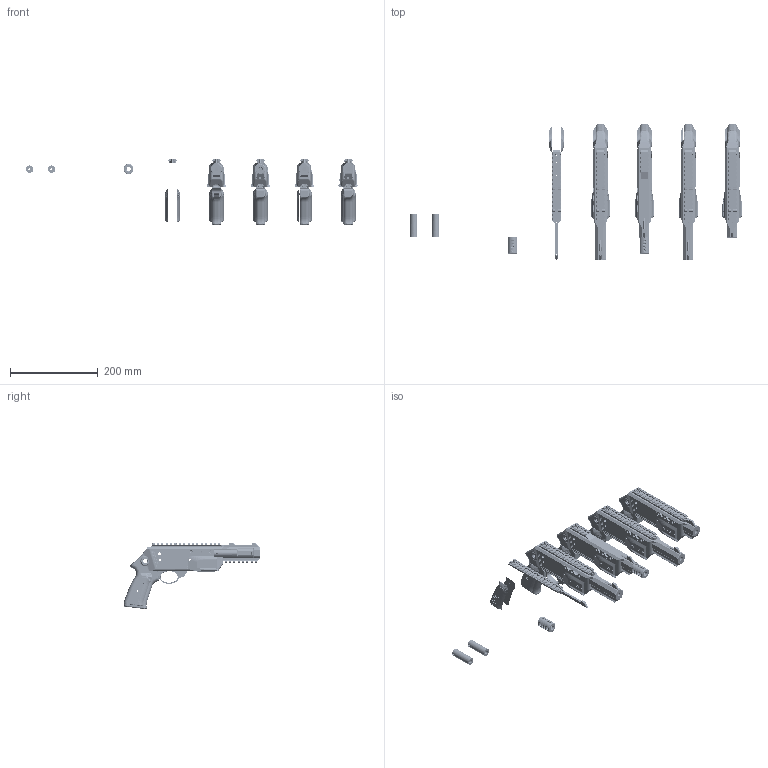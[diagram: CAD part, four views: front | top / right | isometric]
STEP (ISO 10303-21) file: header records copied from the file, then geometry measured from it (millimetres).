
FILE_DESCRIPTION(/* description */ (''),/* implementation_level */ '2;1');
FILE_NAME(/* name */ 'D:/CAD Projects/GnaverBlaster/DB Firearms GnaverBlaster Release/STEP/GnaverBlaster by DB Firearms 1.1.step',/* time_stamp */ '2022-07-06T08:05:09-07:00',/* author */ (''),/* organization */ (''),/* preprocessor_version */ 'ST-DEVELOPER v19',/* originating_system */ 'Autodesk Translation Framework v11.7.0.108',/* authorisation */ '');
FILE_SCHEMA (('AUTOMOTIVE_DESIGN { 1 0 10303 214 3 1 1 }'));
Products named in the file (11): GnaverBlaster Final Release; Receiver; Grip Panels; Rails/Sights; Compensator(CHASZEL); Compensator(REDMANS); Redmans Extractor Jig; Chaszel Extractor Jig; Mock Up Trigger Pack; Mock Up Mag; Built In Supports
Assembly tree (10 placements, depth 2):
  GnaverBlaster Final Release
    Receiver
    Grip Panels
    Rails/Sights
    Compensator(CHASZEL)
    Compensator(REDMANS)
    Redmans Extractor Jig
    Chaszel Extractor Jig
    Mock Up Trigger Pack
    Mock Up Mag
    Built In Supports
Bounding box: 755.6 x 310.84 x 150.84 mm (x, y, z)
Volume: 1423148.8 mm3; surface area: 461015.4 mm2
Topology: 36 solids, 40 shells, 9650 faces, 24802 edges, 15077 vertices
Faces by surface type: plane 4019, cylinder 3127, bspline 1925, sphere 340, torus 202, cone 37
Full cylindrical faces by diameter (mm): 1.6 x4, 2.5 x15, 2.946 x4, 3 x39, 3.7 x1, 3.8 x10, 4 x16, 4.4 x10, 5 x22, 6.35 x8, 6.858 x10, 7 x9, 7.8 x1, 8.128 x1, 8.192 x4, 8.2 x2, 8.25 x5, 9.5 x5, 9.6 x8, 9.652 x1, 9.725 x2, 10 x4, 17 x2
Entity records: 349751 total; most frequent: CARTESIAN_POINT 120447, ORIENTED_EDGE 48872, DIRECTION 46663, EDGE_CURVE 24436, AXIS2_PLACEMENT_3D 16628, VERTEX_POINT 15077, LINE 13407, VECTOR 13407
